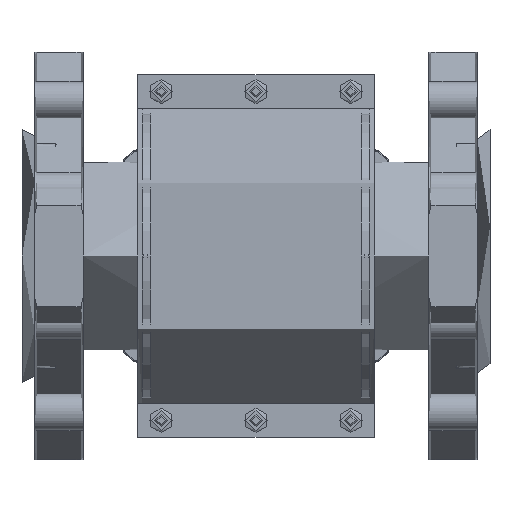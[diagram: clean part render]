
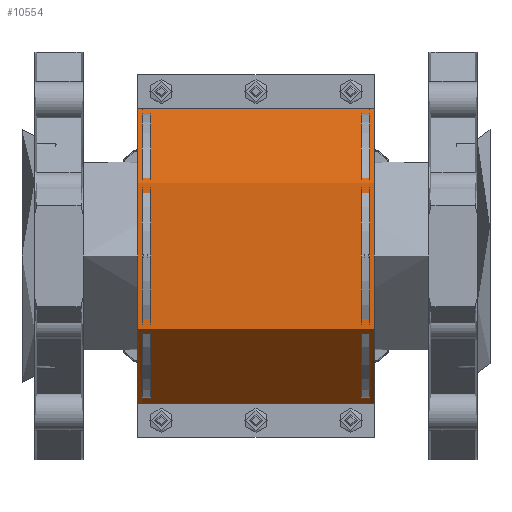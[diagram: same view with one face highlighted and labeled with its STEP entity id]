
A CAD part, front view. The second image highlights one B-rep face of the part: STEP entity #10554.
In plain terms, the highlighted cylindrical face has radius 70 mm (diameter 140 mm), a partial arc.
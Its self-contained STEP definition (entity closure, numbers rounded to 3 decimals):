
#10554=ADVANCED_FACE('',(#28005),#28007,.T.);
#28005=FACE_BOUND('',#28006,.T.);
#28006=EDGE_LOOP('',(#36887,#36888,#36889,#36890,#36891,#36892,#36893,#36894,#36895,
#36896));
#28007=CYLINDRICAL_SURFACE('',#28008,70.);
#28008=AXIS2_PLACEMENT_3D('',#28009,#28010,#28011);
#28009=CARTESIAN_POINT('',(-56.,-43.603,0.));
#28010=DIRECTION('',(1.,0.,0.));
#28011=DIRECTION('',(0.,0.,1.));
#36887=ORIENTED_EDGE('',*,*,#41012,.F.);
#36888=ORIENTED_EDGE('',*,*,#40901,.F.);
#36889=ORIENTED_EDGE('',*,*,#41002,.T.);
#36890=ORIENTED_EDGE('',*,*,#41013,.F.);
#36891=ORIENTED_EDGE('',*,*,#40953,.T.);
#36892=ORIENTED_EDGE('',*,*,#40989,.F.);
#36893=ORIENTED_EDGE('',*,*,#40963,.T.);
#36894=ORIENTED_EDGE('',*,*,#41014,.T.);
#36895=ORIENTED_EDGE('',*,*,#40993,.T.);
#36896=ORIENTED_EDGE('',*,*,#40882,.F.);
#40882=EDGE_CURVE('',#45069,#45071,#45072,.T.);
#40901=EDGE_CURVE('',#45098,#45100,#45101,.F.);
#40953=EDGE_CURVE('',#45182,#45030,#45183,.F.);
#40963=EDGE_CURVE('',#45022,#45198,#45200,.F.);
#40989=EDGE_CURVE('',#45022,#45030,#45240,.T.);
#40993=EDGE_CURVE('',#45246,#45071,#45247,.T.);
#41002=EDGE_CURVE('',#45098,#45256,#45258,.T.);
#41012=EDGE_CURVE('',#45100,#45069,#45274,.F.);
#41013=EDGE_CURVE('',#45182,#45256,#45275,.T.);
#41014=EDGE_CURVE('',#45198,#45246,#45276,.T.);
#45022=VERTEX_POINT('',#59793);
#45030=VERTEX_POINT('',#59811);
#45069=VERTEX_POINT('',#59908);
#45071=VERTEX_POINT('',#59912);
#45072=CIRCLE('',#59913,70.);
#45098=VERTEX_POINT('',#59976);
#45100=VERTEX_POINT('',#59980);
#45101=CIRCLE('',#59981,70.);
#45182=VERTEX_POINT('',#61935);
#45183=LINE('',#61936,#61937);
#45198=VERTEX_POINT('',#61969);
#45200=LINE('',#61973,#61974);
#45240=LINE('',#62153,#62154);
#45246=VERTEX_POINT('',#62169);
#45247=LINE('',#62170,#62171);
#45256=VERTEX_POINT('',#62195);
#45258=LINE('',#62199,#62200);
#45274=LINE('',#62235,#62236);
#45275=CIRCLE('',#62238,70.);
#45276=CIRCLE('',#62242,70.);
#59793=CARTESIAN_POINT('',(-54.,-44.603,69.993));
#59811=CARTESIAN_POINT('',(54.,-44.603,69.993));
#59908=CARTESIAN_POINT('',(-54.,-45.603,-69.971));
#59912=CARTESIAN_POINT('',(-54.,-44.603,-69.993));
#59913=AXIS2_PLACEMENT_3D('',#59914,#59915,#59916);
#59914=CARTESIAN_POINT('',(-54.,-43.603,0.));
#59915=DIRECTION('',(1.,0.,0.));
#59916=DIRECTION('',(0.,-0.029,-1.));
#59976=CARTESIAN_POINT('',(54.,-44.603,-69.993));
#59980=CARTESIAN_POINT('',(54.,-45.603,-69.971));
#59981=AXIS2_PLACEMENT_3D('',#59982,#59983,#59984);
#59982=CARTESIAN_POINT('',(54.,-43.603,0.));
#59983=DIRECTION('',(1.,0.,0.));
#59984=DIRECTION('',(0.,-0.029,-1.));
#61935=CARTESIAN_POINT('',(56.,-44.603,69.993));
#61936=CARTESIAN_POINT('',(54.,-44.603,69.993));
#61937=VECTOR('',#61938,1.);
#61938=DIRECTION('',(1.,0.,0.));
#61969=CARTESIAN_POINT('',(-56.,-44.603,69.993));
#61973=CARTESIAN_POINT('',(-56.,-44.603,69.993));
#61974=VECTOR('',#61975,1.);
#61975=DIRECTION('',(1.,0.,0.));
#62153=CARTESIAN_POINT('',(-54.,-44.603,69.993));
#62154=VECTOR('',#62155,1.);
#62155=DIRECTION('',(1.,0.,0.));
#62169=CARTESIAN_POINT('',(-56.,-44.603,-69.993));
#62170=CARTESIAN_POINT('',(-56.,-44.603,-69.993));
#62171=VECTOR('',#62172,1.);
#62172=DIRECTION('',(1.,0.,0.));
#62195=CARTESIAN_POINT('',(56.,-44.603,-69.993));
#62199=CARTESIAN_POINT('',(54.,-44.603,-69.993));
#62200=VECTOR('',#62201,1.);
#62201=DIRECTION('',(1.,0.,0.));
#62235=CARTESIAN_POINT('',(-54.,-45.603,-69.971));
#62236=VECTOR('',#62237,1.);
#62237=DIRECTION('',(1.,0.,0.));
#62238=AXIS2_PLACEMENT_3D('',#62239,#62240,#62241);
#62239=CARTESIAN_POINT('',(56.,-43.603,0.));
#62240=DIRECTION('',(1.,0.,0.));
#62241=DIRECTION('',(0.,-0.014,1.));
#62242=AXIS2_PLACEMENT_3D('',#62243,#62244,#62245);
#62243=CARTESIAN_POINT('',(-56.,-43.603,0.));
#62244=DIRECTION('',(1.,0.,0.));
#62245=DIRECTION('',(0.,-0.014,1.));
